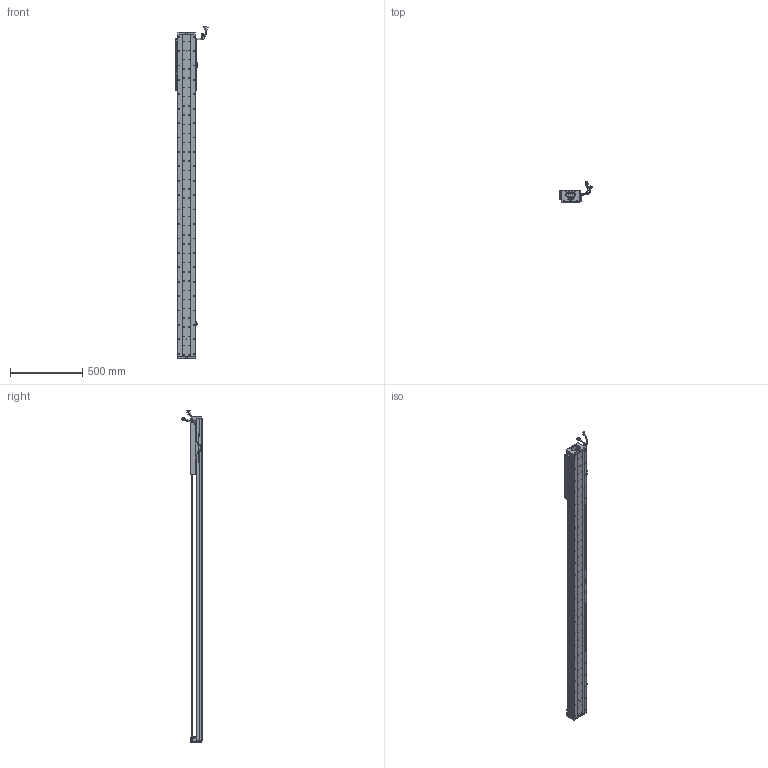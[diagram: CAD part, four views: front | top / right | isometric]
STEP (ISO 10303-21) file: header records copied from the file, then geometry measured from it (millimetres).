
FILE_DESCRIPTION (( 'STEP AP203' ), '1' );
FILE_NAME ('Z5-RY120D-1-L500-B-K.SLDASM_1800.step', '2021-05-17T06:23:56', ( '盈信电脑' ), ( '东莞市道滘镇水果街19号' ), 'SwSTEP 2.0', 'SolidWorks 2016', '' );
FILE_SCHEMA (( 'CONFIG_CONTROL_DESIGN' ));
Length unit declared in the file: millimetre
Products named in the file (37): Z5-RY120D-1-L500-B-K.SLDASM_1800; PBU_SHEET; 080黍杅芛假蚾釱21遴; PSLH080_PSLF2; SCREW-M1.6; SCREW-M1.7; HOLDER0; 120-Z-臏賑輸盄裔(21遴); Z-120詩湍傷裔啣; 覜茼ん672; 672嫖萇羲壽假蚾釱; SCREW-M1.6-2; SEAL-Part-1; Z-RY120D詩湍奻揤裔; Z5-RY120铝滑块（21款）; HARNESS; SHIELDPLATE; 140雄赽晤鎢ん堤盄; 榋妏寠巭燃_暯_M2_2; SCREW-M1.7-1; SCREW-M1.6-3; LABEL-Part-1; HARNESS-Part-2; SCALE-Part-1; HARNESS-Part-1; SEAL; Z5-RY120-L500詩湍100mm遵_1800; SCALE-Part-2; COVER; SCREW-M1.6-1; COVER-Part-1; Z-RY120D詩湍狟揤裔; Z5-RY120-500-倰第菁釱_1800; 140蚥薯蝶輸; SCALE; RY100FB-遵嫖萇覜茼え; LABEL
Assembly tree (43 placements, depth 4):
  Z5-RY120D-1-L500-B-K.SLDASM_1800
    Z5-RY120-500-倰第菁釱_1800
    覜茼ん672  x3
    672嫖萇羲壽假蚾釱  x2
    Z5-RY120铝滑块（21款）
    PSLH080_PSLF2
      SCALE
        SCALE-Part-1
        SCALE-Part-2
      HARNESS
        HARNESS-Part-1
        HARNESS-Part-2
      LABEL
        LABEL-Part-1
      COVER
        COVER-Part-1
      SEAL
        SEAL-Part-1
      榋妏寠巭燃_暯_M2_2
      SHIELDPLATE
      SCREW-M1.7
      SCREW-M1.7-1
      PBU_SHEET
      SCREW-M1.6
      SCREW-M1.6-1
      SCREW-M1.6-2
      SCREW-M1.6-3
      HOLDER0
    080黍杅芛假蚾釱21遴
    120-Z-臏賑輸盄裔(21遴)
    140雄赽晤鎢ん堤盄
    140蚥薯蝶輸  x2
    RY100FB-遵嫖萇覜茼え
    Z-120詩湍傷裔啣  x2
    Z-RY120D詩湍奻揤裔  x2
    Z-RY120D詩湍狟揤裔  x2
    Z5-RY120-L500詩湍100mm遵_1800
Bounding box: 222.88 x 140.94 x 2303.99 mm (x, y, z)
Volume: 5872386.7 mm3; surface area: 1979095.2 mm2
Topology: 38 solids, 38 shells, 3573 faces, 10071 edges, 6360 vertices
Faces by surface type: cylinder 1855, plane 1234, cone 362, torus 69, bspline 53
Entity records: 117828 total; most frequent: CARTESIAN_POINT 35173, ORIENTED_EDGE 16942, DIRECTION 15777, EDGE_CURVE 8471, AXIS2_PLACEMENT_3D 5846, VERTEX_POINT 5480, VECTOR 4085, LINE 4085
